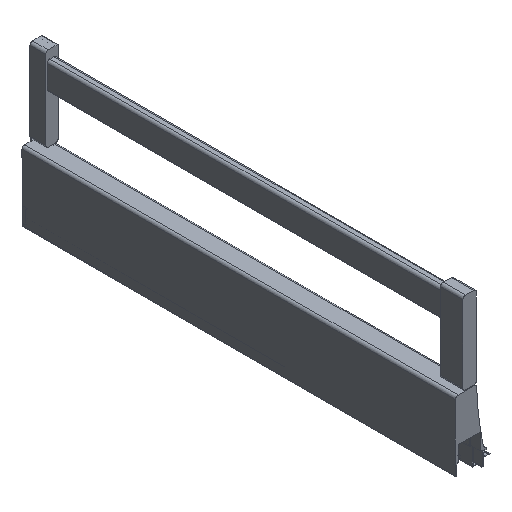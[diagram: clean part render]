
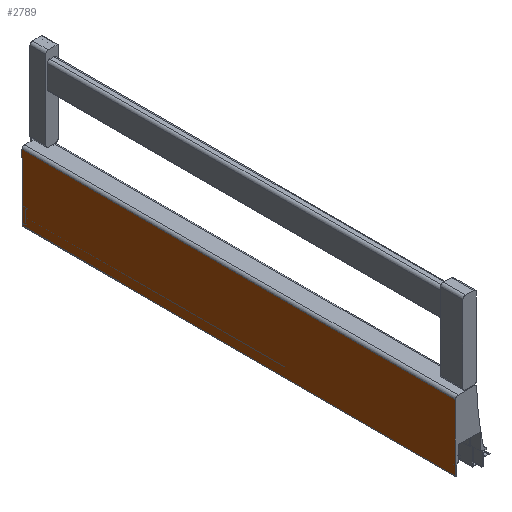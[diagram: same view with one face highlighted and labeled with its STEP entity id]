
A CAD part, isometric view. The second image highlights one B-rep face of the part: STEP entity #2789.
In plain terms, the highlighted planar face has unit normal (-1, 0, 0).
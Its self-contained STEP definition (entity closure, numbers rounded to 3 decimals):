
#232 = ORIENTED_EDGE ( 'NONE', *, *, #2650, .T. ) ;
#233 = ORIENTED_EDGE ( 'NONE', *, *, #2332, .T. ) ;
#234 = ORIENTED_EDGE ( 'NONE', *, *, #2312, .F. ) ;
#235 = ORIENTED_EDGE ( 'NONE', *, *, #3098, .F. ) ;
#1016 = EDGE_LOOP ( 'NONE', ( #235, #234, #233, #232 ) ) ;
#1158 = VECTOR ( 'NONE', #3544, 1000. ) ;
#1161 = LINE ( 'NONE', #3535, #1158 ) ;
#1189 = LINE ( 'NONE', #3575, #1190 ) ;
#1190 = VECTOR ( 'NONE', #3576, 1000. ) ;
#1465 = VECTOR ( 'NONE', #5056, 1000. ) ;
#1466 = LINE ( 'NONE', #5055, #1465 ) ;
#1873 = FACE_OUTER_BOUND ( 'NONE', #1016, .T. ) ;
#2049 = VECTOR ( 'NONE', #4026, 1000. ) ;
#2050 = LINE ( 'NONE', #4025, #2049 ) ;
#2312 = EDGE_CURVE ( 'NONE', #3365, #3448, #1161, .T. ) ;
#2332 = EDGE_CURVE ( 'NONE', #3365, #3364, #1189, .T. ) ;
#2383 = AXIS2_PLACEMENT_3D ( 'NONE', #4262, #4267, #4268 ) ;
#2650 = EDGE_CURVE ( 'NONE', #3364, #3449, #2050, .T. ) ;
#2789 = ADVANCED_FACE ( 'NONE', ( #1873 ), #4261, .F. ) ;
#3098 = EDGE_CURVE ( 'NONE', #3448, #3449, #1466, .T. ) ;
#3364 = VERTEX_POINT ( 'NONE', #5350 ) ;
#3365 = VERTEX_POINT ( 'NONE', #5351 ) ;
#3448 = VERTEX_POINT ( 'NONE', #5434 ) ;
#3449 = VERTEX_POINT ( 'NONE', #5435 ) ;
#3535 = CARTESIAN_POINT ( 'NONE',  ( -4.1, 490., 46.498 ) ) ;
#3544 = DIRECTION ( 'NONE',  ( 0., -1., 0. ) ) ;
#3575 = CARTESIAN_POINT ( 'NONE',  ( -4.1, 490., -7.702 ) ) ;
#3576 = DIRECTION ( 'NONE',  ( 0., 0., -1. ) ) ;
#4025 = CARTESIAN_POINT ( 'NONE',  ( -4.1, 490., -28.503 ) ) ;
#4026 = DIRECTION ( 'NONE',  ( 0., -1., 0. ) ) ;
#4261 = PLANE ( 'NONE',  #2383 ) ;
#4262 = CARTESIAN_POINT ( 'NONE',  ( -4.1, 490., -28.503 ) ) ;
#4267 = DIRECTION ( 'NONE',  ( 1., 0., 0. ) ) ;
#4268 = DIRECTION ( 'NONE',  ( 0., 0., -1. ) ) ;
#5055 = CARTESIAN_POINT ( 'NONE',  ( -4.1, 0., -28.503 ) ) ;
#5056 = DIRECTION ( 'NONE',  ( 0., 0., -1. ) ) ;
#5350 = CARTESIAN_POINT ( 'NONE',  ( -4.1, 490., -28.503 ) ) ;
#5351 = CARTESIAN_POINT ( 'NONE',  ( -4.1, 490., 46.498 ) ) ;
#5434 = CARTESIAN_POINT ( 'NONE',  ( -4.1, 0., 46.498 ) ) ;
#5435 = CARTESIAN_POINT ( 'NONE',  ( -4.1, 0., -28.503 ) ) ;
